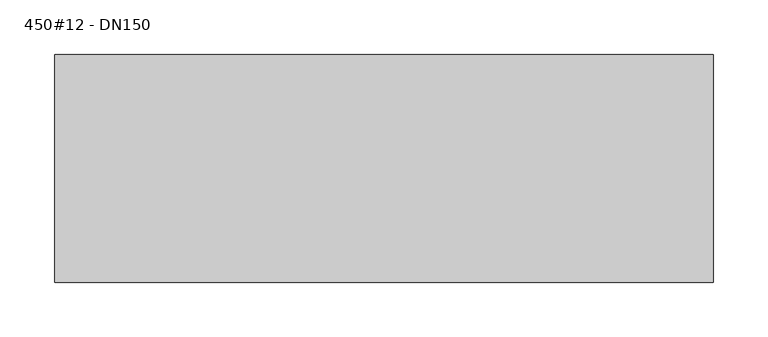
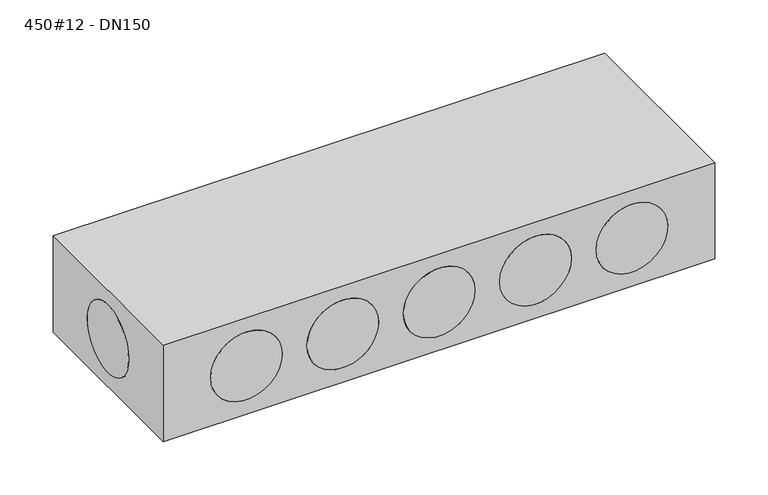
"""IFC4 building model written with IfcOpenShell, lengths in millimetres: duct fitting geometry, NLRS_57_DUF_UN_air plenum_M&G : 450#12 - DN150."""

from ifc_helpers import new_model, si_unit, point, frame, frame_2d, origin, place, context, project, spatial, polyline, circle_curve, trimmed, segment, composite_curve, outline, extrude, source, transform, mapped, element, save
from ifc_brep_helpers import plane_surface, revolved_surface, advanced_brep


def duct_fitting_450_12_dn150_62d17831(model_context):
    return source(origin(), model_context, "Body", "SolidModel", [
        extrude(outline(composite_curve([segment(trimmed(circle_curve(frame_2d((0.0, 55.5)), 39.0), [point((-39.0, 55.5))], [point((39.0, 55.5))], False, "CARTESIAN"), True, "CONTINUOUS"), segment(trimmed(circle_curve(frame_2d((0.0, 55.5)), 39.0), [point((39.0, 55.5))], [point((-39.0, 55.5))], False, "CARTESIAN"), True, "CONTINUOUS")], self_intersect=False)), frame((297.5, 0.0, 0.0), z_axis=(1.0, 0.0, 0.0), x_axis=(0.0, 1.0, 0.0)), (0.0, 0.0, 1.0), 3.0),
        extrude(outline(composite_curve([segment(trimmed(circle_curve(frame_2d((0.0, 55.5)), 39.0), [point((-39.0, 55.5))], [point((39.0, 55.5))], False, "CARTESIAN"), True, "CONTINUOUS"), segment(trimmed(circle_curve(frame_2d((0.0, 55.5)), 39.0), [point((39.0, 55.5))], [point((-39.0, 55.5))], False, "CARTESIAN"), True, "CONTINUOUS")], self_intersect=False)), frame((-300.5, 0.0, 0.0), z_axis=(1.0, 0.0, 0.0), x_axis=(0.0, 1.0, 0.0)), (0.0, 0.0, 1.0), 3.0),
        extrude(outline(composite_curve([segment(trimmed(circle_curve(frame_2d((55.5, -210.0)), 39.0), [point((55.5, -249.0))], [point((55.5, -171.0))], False, "CARTESIAN"), True, "CONTINUOUS"), segment(trimmed(circle_curve(frame_2d((55.5, -210.0)), 39.0), [point((55.5, -171.0))], [point((55.5, -249.0))], False, "CARTESIAN"), True, "CONTINUOUS")], self_intersect=False)), frame((0.0, 101.0, 0.0), z_axis=(0.0, 1.0, 0.0), x_axis=(0.0, 0.0, 1.0)), (0.0, 0.0, 1.0), 3.0),
        extrude(outline(composite_curve([segment(trimmed(circle_curve(frame_2d((55.5, -105.0)), 39.0), [point((55.5, -144.0))], [point((55.5, -66.0))], False, "CARTESIAN"), True, "CONTINUOUS"), segment(trimmed(circle_curve(frame_2d((55.5, -105.0)), 39.0), [point((55.5, -66.0))], [point((55.5, -144.0))], False, "CARTESIAN"), True, "CONTINUOUS")], self_intersect=False)), frame((0.0, 101.0, 0.0), z_axis=(0.0, 1.0, 0.0), x_axis=(0.0, 0.0, 1.0)), (0.0, 0.0, 1.0), 3.0),
        extrude(outline(composite_curve([segment(trimmed(circle_curve(frame_2d((55.5, 0.0)), 39.0), [point((55.5, -39.0))], [point((55.5, 39.0))], False, "CARTESIAN"), True, "CONTINUOUS"), segment(trimmed(circle_curve(frame_2d((55.5, 0.0)), 39.0), [point((55.5, 39.0))], [point((55.5, -39.0))], False, "CARTESIAN"), True, "CONTINUOUS")], self_intersect=False)), frame((0.0, 101.0, 0.0), z_axis=(0.0, 1.0, 0.0), x_axis=(0.0, 0.0, 1.0)), (0.0, 0.0, 1.0), 3.0),
        extrude(outline(composite_curve([segment(trimmed(circle_curve(frame_2d((55.5, 105.0)), 39.0), [point((55.5, 66.0))], [point((55.5, 144.0))], False, "CARTESIAN"), True, "CONTINUOUS"), segment(trimmed(circle_curve(frame_2d((55.5, 105.0)), 39.0), [point((55.5, 144.0))], [point((55.5, 66.0))], False, "CARTESIAN"), True, "CONTINUOUS")], self_intersect=False)), frame((0.0, 101.0, 0.0), z_axis=(0.0, 1.0, 0.0), x_axis=(0.0, 0.0, 1.0)), (0.0, 0.0, 1.0), 3.0),
        extrude(outline(composite_curve([segment(trimmed(circle_curve(frame_2d((55.5, 210.0)), 39.0), [point((55.5, 171.0))], [point((55.5, 249.0))], False, "CARTESIAN"), True, "CONTINUOUS"), segment(trimmed(circle_curve(frame_2d((55.5, 210.0)), 39.0), [point((55.5, 249.0))], [point((55.5, 171.0))], False, "CARTESIAN"), True, "CONTINUOUS")], self_intersect=False)), frame((0.0, 101.0, 0.0), z_axis=(0.0, 1.0, 0.0), x_axis=(0.0, 0.0, 1.0)), (0.0, 0.0, 1.0), 3.0),
        extrude(outline(composite_curve([segment(trimmed(circle_curve(frame_2d((55.5, -210.0)), 39.0), [point((55.5, -249.0))], [point((55.5, -171.0))], False, "CARTESIAN"), True, "CONTINUOUS"), segment(trimmed(circle_curve(frame_2d((55.5, -210.0)), 39.0), [point((55.5, -171.0))], [point((55.5, -249.0))], False, "CARTESIAN"), True, "CONTINUOUS")], self_intersect=False)), frame((0.0, -104.0, 0.0), z_axis=(0.0, 1.0, 0.0), x_axis=(0.0, 0.0, 1.0)), (0.0, 0.0, 1.0), 3.0),
        extrude(outline(composite_curve([segment(trimmed(circle_curve(frame_2d((55.5, -105.0)), 39.0), [point((55.5, -144.0))], [point((55.5, -66.0))], False, "CARTESIAN"), True, "CONTINUOUS"), segment(trimmed(circle_curve(frame_2d((55.5, -105.0)), 39.0), [point((55.5, -66.0))], [point((55.5, -144.0))], False, "CARTESIAN"), True, "CONTINUOUS")], self_intersect=False)), frame((0.0, -104.0, 0.0), z_axis=(0.0, 1.0, 0.0), x_axis=(0.0, 0.0, 1.0)), (0.0, 0.0, 1.0), 3.0),
        extrude(outline(composite_curve([segment(trimmed(circle_curve(frame_2d((55.5, 0.0)), 39.0), [point((55.5, -39.0))], [point((55.5, 39.0))], False, "CARTESIAN"), True, "CONTINUOUS"), segment(trimmed(circle_curve(frame_2d((55.5, 0.0)), 39.0), [point((55.5, 39.0))], [point((55.5, -39.0))], False, "CARTESIAN"), True, "CONTINUOUS")], self_intersect=False)), frame((0.0, -104.0, 0.0), z_axis=(0.0, 1.0, 0.0), x_axis=(0.0, 0.0, 1.0)), (0.0, 0.0, 1.0), 3.0),
        extrude(outline(composite_curve([segment(trimmed(circle_curve(frame_2d((55.5, 105.0)), 39.0), [point((55.5, 66.0))], [point((55.5, 144.0))], False, "CARTESIAN"), True, "CONTINUOUS"), segment(trimmed(circle_curve(frame_2d((55.5, 105.0)), 39.0), [point((55.5, 144.0))], [point((55.5, 66.0))], False, "CARTESIAN"), True, "CONTINUOUS")], self_intersect=False)), frame((0.0, -104.0, 0.0), z_axis=(0.0, 1.0, 0.0), x_axis=(0.0, 0.0, 1.0)), (0.0, 0.0, 1.0), 3.0),
        extrude(outline(composite_curve([segment(trimmed(circle_curve(frame_2d((55.5, 210.0)), 39.0), [point((55.5, 171.0))], [point((55.5, 249.0))], False, "CARTESIAN"), True, "CONTINUOUS"), segment(trimmed(circle_curve(frame_2d((55.5, 210.0)), 39.0), [point((55.5, 249.0))], [point((55.5, 171.0))], False, "CARTESIAN"), True, "CONTINUOUS")], self_intersect=False)), frame((0.0, -104.0, 0.0), z_axis=(0.0, 1.0, 0.0), x_axis=(0.0, 0.0, 1.0)), (0.0, 0.0, 1.0), 3.0),
        advanced_brep(
        [(300.5, 104.0, 111.0), (-300.5, 104.0, 111.0), (-300.5, -104.0, 111.0), (300.5, -104.0, 111.0), (300.5, 104.0, 0.0), (300.5, -104.0, 0.0), (-300.5, -104.0, 0.0), (-300.5, 104.0, 0.0), (-249.0, 104.0, 55.5), (-171.0, 104.0, 55.5), (-144.0, 104.0, 55.5), (-66.0, 104.0, 55.5), (-39.0, 104.0, 55.5), (39.0, 104.0, 55.5), (66.0, 104.0, 55.5), (144.0, 104.0, 55.5), (171.0, 104.0, 55.5), (249.0, 104.0, 55.5), (-300.5, -39.0, 55.5), (-300.5, 39.0, 55.5), (-171.0, -104.0, 55.5), (-249.0, -104.0, 55.5), (-66.0, -104.0, 55.5), (-144.0, -104.0, 55.5), (39.0, -104.0, 55.5), (-39.0, -104.0, 55.5), (144.0, -104.0, 55.5), (66.0, -104.0, 55.5), (249.0, -104.0, 55.5), (171.0, -104.0, 55.5), (300.5, 39.0, 55.5), (300.5, -39.0, 55.5), (-171.0, -95.0, 55.5), (-249.0, -95.0, 55.5), (-66.0, -95.0, 55.5), (-144.0, -95.0, 55.5), (39.0, -95.0, 55.5), (-39.0, -95.0, 55.5), (144.0, -95.0, 55.5), (66.0, -95.0, 55.5), (249.0, -95.0, 55.5), (171.0, -95.0, 55.5), (-295.0, -39.0, 55.5), (-295.0, 39.0, 55.5), (-249.0, 95.0, 55.5), (-171.0, 95.0, 55.5), (-144.0, 95.0, 55.5), (-66.0, 95.0, 55.5), (-39.0, 95.0, 55.5), (39.0, 95.0, 55.5), (66.0, 95.0, 55.5), (144.0, 95.0, 55.5), (171.0, 95.0, 55.5), (249.0, 95.0, 55.5), (295.0, -39.0, 55.5), (295.0, 39.0, 55.5)],
        [
            (0, 1),
            (1, 2),
            (2, 3),
            (3, 0),
            (4, 5),
            (5, 6),
            (6, 7),
            (7, 4),
            (0, 4),
            (7, 1),
            (8, 9, circle_curve(frame((-210.0, 104.0, 55.5), z_axis=(0.0, -1.0, 0.0), x_axis=(1.0, 0.0, 0.0)), 39.0)),
            (9, 8, circle_curve(frame((-210.0, 104.0, 55.5), z_axis=(0.0, -1.0, 0.0), x_axis=(1.0, 0.0, 0.0)), 39.0)),
            (10, 11, circle_curve(frame((-105.0, 104.0, 55.5), z_axis=(0.0, -1.0, 0.0), x_axis=(1.0, 0.0, 0.0)), 39.0)),
            (11, 10, circle_curve(frame((-105.0, 104.0, 55.5), z_axis=(0.0, -1.0, 0.0), x_axis=(1.0, 0.0, 0.0)), 39.0)),
            (12, 13, circle_curve(frame((0.0, 104.0, 55.5), z_axis=(0.0, -1.0, 0.0), x_axis=(1.0, 0.0, 0.0)), 39.0)),
            (13, 12, circle_curve(frame((0.0, 104.0, 55.5), z_axis=(0.0, -1.0, 0.0), x_axis=(1.0, 0.0, 0.0)), 39.0)),
            (14, 15, circle_curve(frame((105.0, 104.0, 55.5), z_axis=(0.0, -1.0, 0.0), x_axis=(1.0, 0.0, 0.0)), 39.0)),
            (15, 14, circle_curve(frame((105.0, 104.0, 55.5), z_axis=(0.0, -1.0, 0.0), x_axis=(1.0, 0.0, 0.0)), 39.0)),
            (16, 17, circle_curve(frame((210.0, 104.0, 55.5), z_axis=(0.0, -1.0, 0.0), x_axis=(1.0, 0.0, 0.0)), 39.0)),
            (17, 16, circle_curve(frame((210.0, 104.0, 55.5), z_axis=(0.0, -1.0, 0.0), x_axis=(1.0, 0.0, 0.0)), 39.0)),
            (6, 2),
            (18, 19, circle_curve(frame((-300.5, 0.0, 55.5), z_axis=(1.0, 0.0, 0.0), x_axis=(0.0, 1.0, 0.0)), 39.0)),
            (19, 18, circle_curve(frame((-300.5, 0.0, 55.5), z_axis=(1.0, 0.0, 0.0), x_axis=(0.0, 1.0, 0.0)), 39.0)),
            (5, 3),
            (20, 21, circle_curve(frame((-210.0, -104.0, 55.5), z_axis=(0.0, 1.0, 0.0), x_axis=(1.0, 0.0, 0.0)), 39.0)),
            (21, 20, circle_curve(frame((-210.0, -104.0, 55.5), z_axis=(0.0, 1.0, 0.0), x_axis=(1.0, 0.0, 0.0)), 39.0)),
            (22, 23, circle_curve(frame((-105.0, -104.0, 55.5), z_axis=(0.0, 1.0, 0.0), x_axis=(1.0, 0.0, 0.0)), 39.0)),
            (23, 22, circle_curve(frame((-105.0, -104.0, 55.5), z_axis=(0.0, 1.0, 0.0), x_axis=(1.0, 0.0, 0.0)), 39.0)),
            (24, 25, circle_curve(frame((0.0, -104.0, 55.5), z_axis=(0.0, 1.0, 0.0), x_axis=(1.0, 0.0, 0.0)), 39.0)),
            (25, 24, circle_curve(frame((0.0, -104.0, 55.5), z_axis=(0.0, 1.0, 0.0), x_axis=(1.0, 0.0, 0.0)), 39.0)),
            (26, 27, circle_curve(frame((105.0, -104.0, 55.5), z_axis=(0.0, 1.0, 0.0), x_axis=(1.0, 0.0, 0.0)), 39.0)),
            (27, 26, circle_curve(frame((105.0, -104.0, 55.5), z_axis=(0.0, 1.0, 0.0), x_axis=(1.0, 0.0, 0.0)), 39.0)),
            (28, 29, circle_curve(frame((210.0, -104.0, 55.5), z_axis=(0.0, 1.0, 0.0), x_axis=(1.0, 0.0, 0.0)), 39.0)),
            (29, 28, circle_curve(frame((210.0, -104.0, 55.5), z_axis=(0.0, 1.0, 0.0), x_axis=(1.0, 0.0, 0.0)), 39.0)),
            (30, 31, circle_curve(frame((300.5, 0.0, 55.5), z_axis=(-1.0, 0.0, 0.0), x_axis=(0.0, 1.0, 0.0)), 39.0)),
            (31, 30, circle_curve(frame((300.5, 0.0, 55.5), z_axis=(-1.0, 0.0, 0.0), x_axis=(0.0, 1.0, 0.0)), 39.0)),
            (32, 33, circle_curve(frame((-210.0, -95.0, 55.5), z_axis=(0.0, 1.0, 0.0), x_axis=(1.0, 0.0, 0.0)), 39.0)),
            (33, 21),
            (20, 32),
            (33, 32, circle_curve(frame((-210.0, -95.0, 55.5), z_axis=(0.0, 1.0, 0.0), x_axis=(1.0, 0.0, 0.0)), 39.0)),
            (34, 35, circle_curve(frame((-105.0, -95.0, 55.5), z_axis=(0.0, 1.0, 0.0), x_axis=(1.0, 0.0, 0.0)), 39.0)),
            (35, 23),
            (22, 34),
            (35, 34, circle_curve(frame((-105.0, -95.0, 55.5), z_axis=(0.0, 1.0, 0.0), x_axis=(1.0, 0.0, 0.0)), 39.0)),
            (36, 37, circle_curve(frame((0.0, -95.0, 55.5), z_axis=(0.0, 1.0, 0.0), x_axis=(1.0, 0.0, 0.0)), 39.0)),
            (37, 25),
            (24, 36),
            (37, 36, circle_curve(frame((0.0, -95.0, 55.5), z_axis=(0.0, 1.0, 0.0), x_axis=(1.0, 0.0, 0.0)), 39.0)),
            (38, 39, circle_curve(frame((105.0, -95.0, 55.5), z_axis=(0.0, 1.0, 0.0), x_axis=(1.0, 0.0, 0.0)), 39.0)),
            (39, 27),
            (26, 38),
            (39, 38, circle_curve(frame((105.0, -95.0, 55.5), z_axis=(0.0, 1.0, 0.0), x_axis=(1.0, 0.0, 0.0)), 39.0)),
            (40, 41, circle_curve(frame((210.0, -95.0, 55.5), z_axis=(0.0, 1.0, 0.0), x_axis=(1.0, 0.0, 0.0)), 39.0)),
            (41, 29),
            (28, 40),
            (41, 40, circle_curve(frame((210.0, -95.0, 55.5), z_axis=(0.0, 1.0, 0.0), x_axis=(1.0, 0.0, 0.0)), 39.0)),
            (42, 43, circle_curve(frame((-295.0, 0.0, 55.5), z_axis=(1.0, 0.0, 0.0), x_axis=(0.0, 1.0, 0.0)), 39.0)),
            (43, 19),
            (18, 42),
            (43, 42, circle_curve(frame((-295.0, 0.0, 55.5), z_axis=(1.0, 0.0, 0.0), x_axis=(0.0, 1.0, 0.0)), 39.0)),
            (44, 45, circle_curve(frame((-210.0, 95.0, 55.5), z_axis=(0.0, 1.0, 0.0), x_axis=(1.0, 0.0, 0.0)), 39.0)),
            (45, 44, circle_curve(frame((-210.0, 95.0, 55.5), z_axis=(0.0, 1.0, 0.0), x_axis=(1.0, 0.0, 0.0)), 39.0)),
            (46, 47, circle_curve(frame((-105.0, 95.0, 55.5), z_axis=(0.0, 1.0, 0.0), x_axis=(1.0, 0.0, 0.0)), 39.0)),
            (47, 46, circle_curve(frame((-105.0, 95.0, 55.5), z_axis=(0.0, 1.0, 0.0), x_axis=(1.0, 0.0, 0.0)), 39.0)),
            (48, 49, circle_curve(frame((0.0, 95.0, 55.5), z_axis=(0.0, 1.0, 0.0), x_axis=(1.0, 0.0, 0.0)), 39.0)),
            (49, 48, circle_curve(frame((0.0, 95.0, 55.5), z_axis=(0.0, 1.0, 0.0), x_axis=(1.0, 0.0, 0.0)), 39.0)),
            (50, 51, circle_curve(frame((105.0, 95.0, 55.5), z_axis=(0.0, 1.0, 0.0), x_axis=(1.0, 0.0, 0.0)), 39.0)),
            (51, 50, circle_curve(frame((105.0, 95.0, 55.5), z_axis=(0.0, 1.0, 0.0), x_axis=(1.0, 0.0, 0.0)), 39.0)),
            (52, 53, circle_curve(frame((210.0, 95.0, 55.5), z_axis=(0.0, 1.0, 0.0), x_axis=(1.0, 0.0, 0.0)), 39.0)),
            (53, 52, circle_curve(frame((210.0, 95.0, 55.5), z_axis=(0.0, 1.0, 0.0), x_axis=(1.0, 0.0, 0.0)), 39.0)),
            (45, 9),
            (8, 44),
            (47, 11),
            (10, 46),
            (49, 13),
            (12, 48),
            (51, 15),
            (14, 50),
            (53, 17),
            (16, 52),
            (54, 55, circle_curve(frame((295.0, 0.0, 55.5), z_axis=(1.0, 0.0, 0.0), x_axis=(0.0, 1.0, 0.0)), 39.0)),
            (55, 54, circle_curve(frame((295.0, 0.0, 55.5), z_axis=(1.0, 0.0, 0.0), x_axis=(0.0, 1.0, 0.0)), 39.0)),
            (54, 31),
            (30, 55),
        ],
        [
            plane_surface(frame((-300.5, 104.0, 111.0), z_axis=(0.0, 0.0, 1.0), x_axis=(-1.0, 0.0, 0.0))),
            plane_surface(frame((-300.5, 104.0, 0.0), z_axis=(0.0, 0.0, -1.0), x_axis=(1.0, 0.0, 0.0))),
            plane_surface(frame((300.5, 104.0, 111.0), z_axis=(0.0, 1.0, 0.0), x_axis=(0.0, 0.0, -1.0))),
            plane_surface(frame((-300.5, 104.0, 111.0), z_axis=(-1.0, 0.0, 0.0), x_axis=(0.0, 0.0, -1.0))),
            plane_surface(frame((-300.5, -104.0, 111.0), z_axis=(0.0, -1.0, 0.0), x_axis=(0.0, 0.0, -1.0))),
            plane_surface(frame((300.5, -104.0, 111.0), z_axis=(1.0, 0.0, 0.0), x_axis=(0.0, 0.0, -1.0))),
            revolved_surface(polyline([(-171.0, -104.0, 55.5), (-171.0, -95.0, 55.5)]), (-210.0, -95.0, 55.5), (0.0, -1.0, 0.0)),
            revolved_surface(polyline([(-66.0, -104.0, 55.5), (-66.0, -95.0, 55.5)]), (-105.0, 0.0, 55.5), (0.0, -1.0, 0.0)),
            revolved_surface(polyline([(39.0, -104.0, 55.5), (39.0, -95.0, 55.5)]), (0.0, 0.0, 55.5), (0.0, -1.0, 0.0)),
            revolved_surface(polyline([(144.0, -104.0, 55.5), (144.0, -95.0, 55.5)]), (105.0, 0.0, 55.5), (0.0, -1.0, 0.0)),
            revolved_surface(polyline([(249.0, -104.0, 55.5), (249.0, -95.0, 55.5)]), (210.0, 0.0, 55.5), (0.0, -1.0, 0.0)),
            revolved_surface(polyline([(-295.0, 39.0, 55.5), (-300.5, 39.0, 55.5)]), (-300.5, 0.0, 55.5), (1.0, 0.0, 0.0)),
            plane_surface(frame((-171.0, -95.0, 55.5), z_axis=(0.0, -1.0, 0.0), x_axis=(0.0, 0.0, -1.0))),
            plane_surface(frame((-171.0, 95.0, 55.5), z_axis=(0.0, 1.0, 0.0), x_axis=(0.0, 0.0, 1.0))),
            revolved_surface(polyline([(-171.0, 95.0, 55.5), (-171.0, 104.0, 55.5)]), (-210.0, 104.0, 55.5), (0.0, -1.0, 0.0)),
            revolved_surface(polyline([(-66.0, 95.0, 55.5), (-66.0, 104.0, 55.5)]), (-105.0, 0.0, 55.5), (0.0, -1.0, 0.0)),
            revolved_surface(polyline([(39.0, 95.0, 55.5), (39.0, 104.0, 55.5)]), (0.0, 0.0, 55.5), (0.0, -1.0, 0.0)),
            revolved_surface(polyline([(144.0, 95.0, 55.5), (144.0, 104.0, 55.5)]), (105.0, 0.0, 55.5), (0.0, -1.0, 0.0)),
            revolved_surface(polyline([(249.0, 95.0, 55.5), (249.0, 104.0, 55.5)]), (210.0, 0.0, 55.5), (0.0, -1.0, 0.0)),
            plane_surface(frame((-295.0, 39.0, 55.5), z_axis=(-1.0, 0.0, 0.0), x_axis=(0.0, 0.0, 1.0))),
            plane_surface(frame((295.0, 39.0, 55.5), z_axis=(1.0, 0.0, 0.0), x_axis=(0.0, 0.0, -1.0))),
            revolved_surface(polyline([(300.5, 39.0, 55.5), (295.0, 39.0, 55.5)]), (295.0, 0.0, 55.5), (1.0, 0.0, 0.0)),
        ],
        [
            (0, [[1, 2, 3, 4]]),
            (1, [[5, 6, 7, 8]]),
            (2, [[-1, 9, -8, 10], [11, 12], [13, 14], [15, 16], [17, 18], [19, 20]]),
            (3, [[-2, -10, -7, 21], [22, 23]]),
            (4, [[-3, -21, -6, 24], [25, 26], [27, 28], [29, 30], [31, 32], [33, 34]]),
            (5, [[-4, -24, -5, -9], [35, 36]]),
            (6, [[37, 38, -25, 39]]),
            (6, [[40, -39, -26, -38]]),
            (7, [[41, 42, -27, 43]]),
            (7, [[44, -43, -28, -42]]),
            (8, [[45, 46, -29, 47]]),
            (8, [[48, -47, -30, -46]]),
            (9, [[49, 50, -31, 51]]),
            (9, [[52, -51, -32, -50]]),
            (10, [[53, 54, -33, 55]]),
            (10, [[56, -55, -34, -54]]),
            (11, [[57, 58, -22, 59]]),
            (11, [[60, -59, -23, -58]]),
            (12, [[-37, -40]]),
            (12, [[-41, -44]]),
            (12, [[-45, -48]]),
            (12, [[-49, -52]]),
            (12, [[-53, -56]]),
            (13, [[61, 62]]),
            (13, [[63, 64]]),
            (13, [[65, 66]]),
            (13, [[67, 68]]),
            (13, [[69, 70]]),
            (14, [[-62, 71, -11, 72]]),
            (14, [[-61, -72, -12, -71]]),
            (15, [[-64, 73, -13, 74]]),
            (15, [[-63, -74, -14, -73]]),
            (16, [[-66, 75, -15, 76]]),
            (16, [[-65, -76, -16, -75]]),
            (17, [[-68, 77, -17, 78]]),
            (17, [[-67, -78, -18, -77]]),
            (18, [[-70, 79, -19, 80]]),
            (18, [[-69, -80, -20, -79]]),
            (19, [[-60, -57]]),
            (20, [[81, 82]]),
            (21, [[-81, 83, -35, 84]]),
            (21, [[-82, -84, -36, -83]]),
        ],
    ),
    ])


if __name__ == "__main__":
    model = new_model("IFC4")
    model_context = context("Model", 3, world=origin())
    ifc_project = project(units=[si_unit("LENGTHUNIT", "METRE", prefix="MILLI")], contexts=[model_context])
    site = spatial("IfcSite", under=ifc_project)
    building = spatial("IfcBuilding", under=site)
    placement = place(None, origin())
    duct_fitting_450_12_dn150_shape = duct_fitting_450_12_dn150_62d17831(model_context)
    element("IfcDuctFitting", 1, ObjectType="NLRS_57_DUF_UN_air plenum_M&G : 450#12 - DN150", at=placement, inside=building, context=model_context, shape_type="MappedRepresentation", body=[
        mapped(duct_fitting_450_12_dn150_shape, transform((0.0, 0.0, 0.0), x_axis=(1.0, 0.0, 0.0), y_axis=(0.0, 1.0, 0.0), z_axis=(0.0, 0.0, 1.0))),
    ])
    save(model, "model.ifc")
